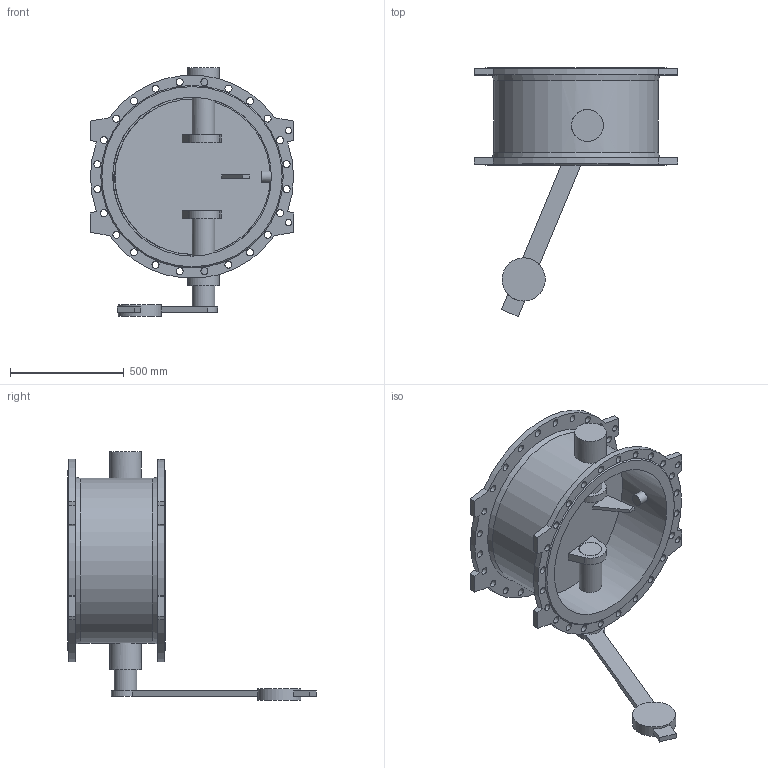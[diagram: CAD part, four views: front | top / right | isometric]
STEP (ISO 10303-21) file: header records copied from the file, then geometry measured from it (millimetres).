
FILE_DESCRIPTION(('STEP AP203'), '1');
FILE_NAME('Êëàïàí 015F.PV DN700 PN10 ñ ïðîòèâîâåñîì', '', ('UNSPECIFIED'), ('UNSPECIFIED'), 'ASCON STEP Converter 1.6', 'ASCON Math Kernel', '');
FILE_SCHEMA(('CONFIG_CONTROL_DESIGN'));
Length unit declared in the file: millimetre
Bounding box: 895 x 1095 x 1095 mm (x, y, z)
Volume: 40871073.8 mm3; surface area: 4409692.5 mm2
Topology: 1 solids, 1 shells, 144 faces, 377 edges, 250 vertices
Faces by surface type: cylinder 74, plane 63, cone 4, extrusion 2, bspline 1
Full cylindrical faces by diameter (mm): 28 x4, 31 x48, 50 x1, 100 x3, 102 x2, 140 x2, 190 x1, 700 x1, 726 x1
Entity records: 6649 total; most frequent: CARTESIAN_POINT 1858, DIRECTION 726, ORIENTED_EDGE 606, EDGE_LOOP 342, EDGE_CURVE 303, AXIS2_PLACEMENT_3D 297, VERTEX_POINT 249, FACE_BOUND 206
